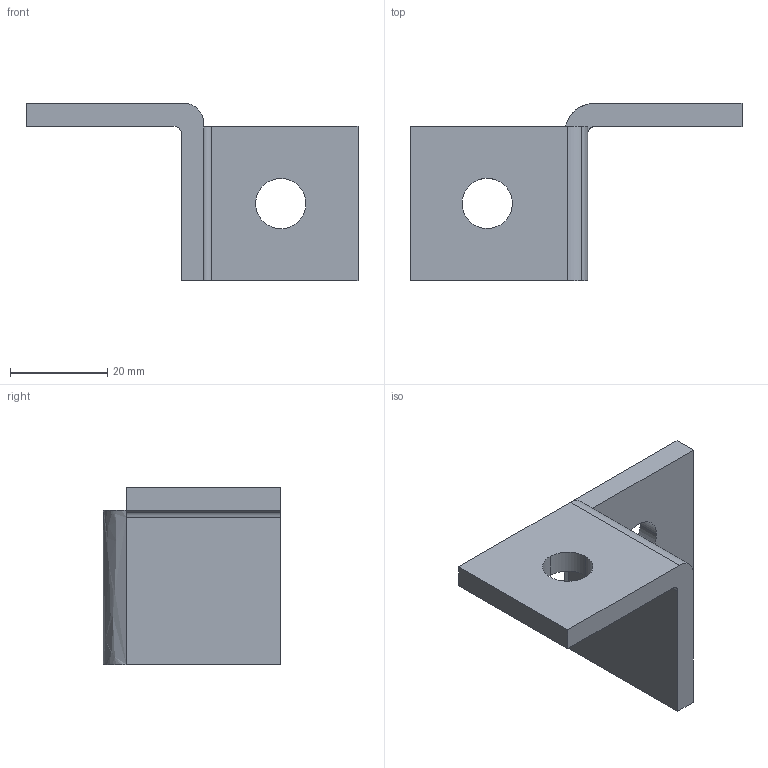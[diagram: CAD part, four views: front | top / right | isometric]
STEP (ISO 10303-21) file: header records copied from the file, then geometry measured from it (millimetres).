
FILE_DESCRIPTION(('TurboCAD Mac Pro'),'Build 980');
FILE_NAME('A2341 R.stp',' ',(''),(''),'ACIS Interop','IMSI','TurboCAD Mac Pro BY IMSI, INCORPORATED');
FILE_SCHEMA(('automotive_design'));
Length unit declared in the file: inch
Products named in the file (1): 1
Bounding box: 68.26 x 36.51 x 36.51 mm (x, y, z)
Volume: 14491.9 mm3; surface area: 7714.5 mm2
Topology: 1 solids, 1 shells, 26 faces, 71 edges, 47 vertices
Faces by surface type: plane 12, bspline 10, cylinder 4
Entity records: 1115 total; most frequent: CARTESIAN_POINT 275, ORIENTED_EDGE 142, DIRECTION 93, EDGE_CURVE 71, VERTEX_POINT 47, LINE 43, VECTOR 43, EDGE_LOOP 30
